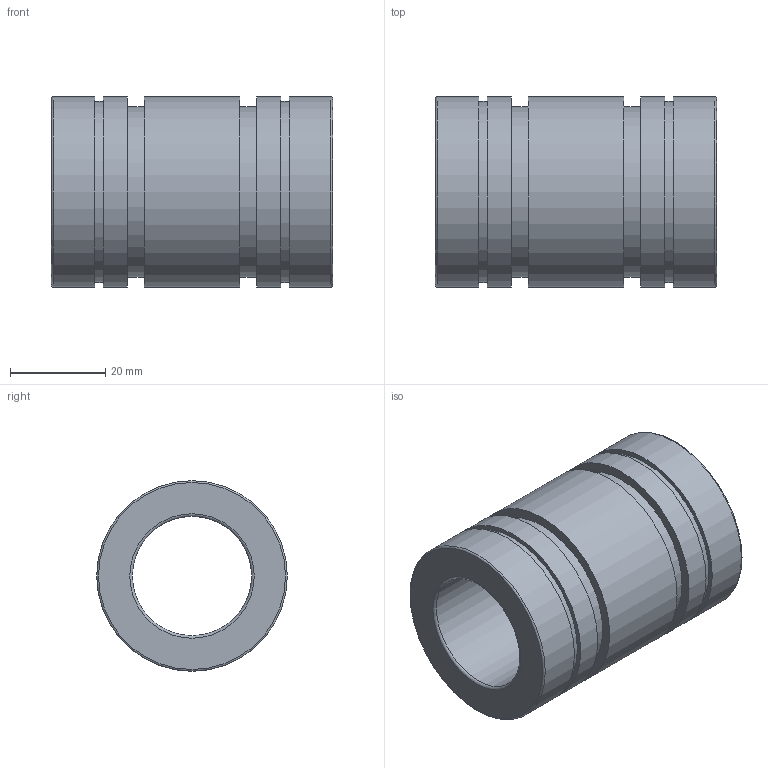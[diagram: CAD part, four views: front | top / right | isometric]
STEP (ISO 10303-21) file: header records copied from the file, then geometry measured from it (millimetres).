
FILE_DESCRIPTION(('STEP AP203'),'1');
FILE_NAME('//192.168.1.1/share/s-4 技術開発/s-4-4_CAD/s-4-4-3_見直し済み/PBC LINEAR修正済み/3D途中/FJ/FJ25.step','2022-03-24T06:57:29',(' '),(' '),'Spatial InterOp 3D',' ',' ');
FILE_SCHEMA(('CONFIG_CONTROL_DESIGN'));
Length unit declared in the file: millimetre
Products named in the file (1): 1
Bounding box: 59 x 40 x 40 mm (x, y, z)
Volume: 42956 mm3; surface area: 14860.9 mm2
Topology: 1 solids, 1 shells, 24 faces, 38 edges, 24 vertices
Faces by surface type: cylinder 10, plane 10, torus 4
Full cylindrical faces by diameter (mm): 25 x1, 35.865 x2, 38 x2, 40 x5
Entity records: 532 total; most frequent: DIRECTION 98, CARTESIAN_POINT 73, AXIS2_PLACEMENT_3D 49, EDGE_LOOP 48, ORIENTED_EDGE 48, FACE_OUTER_BOUND 38, ADVANCED_FACE 24, EDGE_CURVE 24
